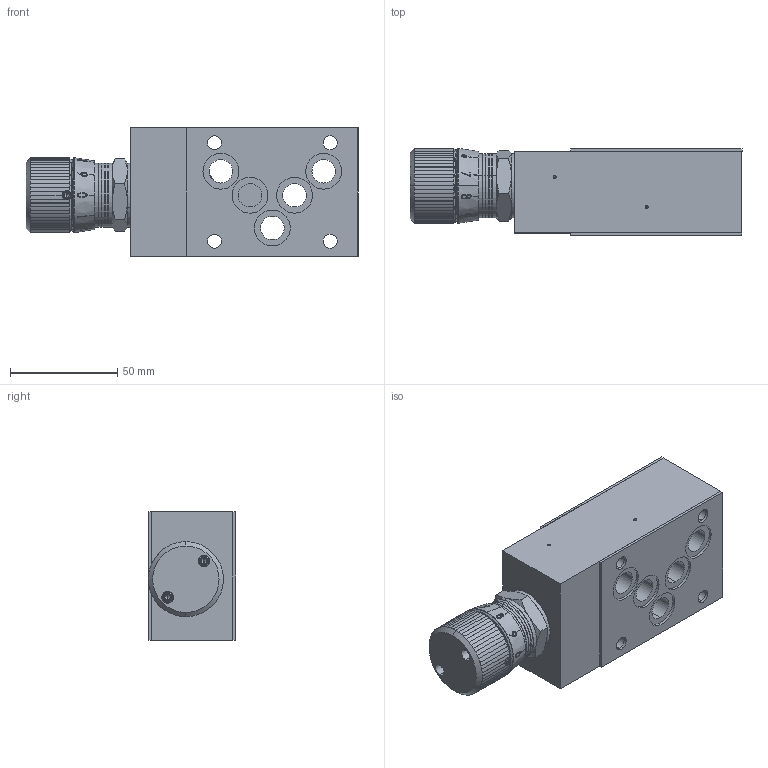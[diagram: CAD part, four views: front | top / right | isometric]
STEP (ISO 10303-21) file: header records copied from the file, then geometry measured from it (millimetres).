
FILE_DESCRIPTION (( 'STEP AP214' ), '1' );
FILE_NAME ('AURDVA10.STEP', '2017-04-12T14:07:43', ( '' ), ( '' ), 'SwSTEP 2.0', 'SolidWorks 2016', '' );
FILE_SCHEMA (( 'AUTOMOTIVE_DESIGN' ));
Length unit declared in the file: millimetre
Products named in the file (1): AURDVA10
Bounding box: 155 x 40.74 x 60 mm (x, y, z)
Volume: 270663.8 mm3; surface area: 57159.8 mm2
Topology: 3 solids, 4 shells, 980 faces, 2731 edges, 1786 vertices
Faces by surface type: plane 580, cylinder 191, bspline 118, cone 75, torus 16
Entity records: 56534 total; most frequent: CARTESIAN_POINT 22672, ORIENTED_EDGE 5442, DIRECTION 4014, EDGE_CURVE 2721, VERTEX_POINT 1786, AXIS2_PLACEMENT_3D 1518, EDGE_LOOP 1071, B_SPLINE_CURVE_WITH_KNOTS 1042
